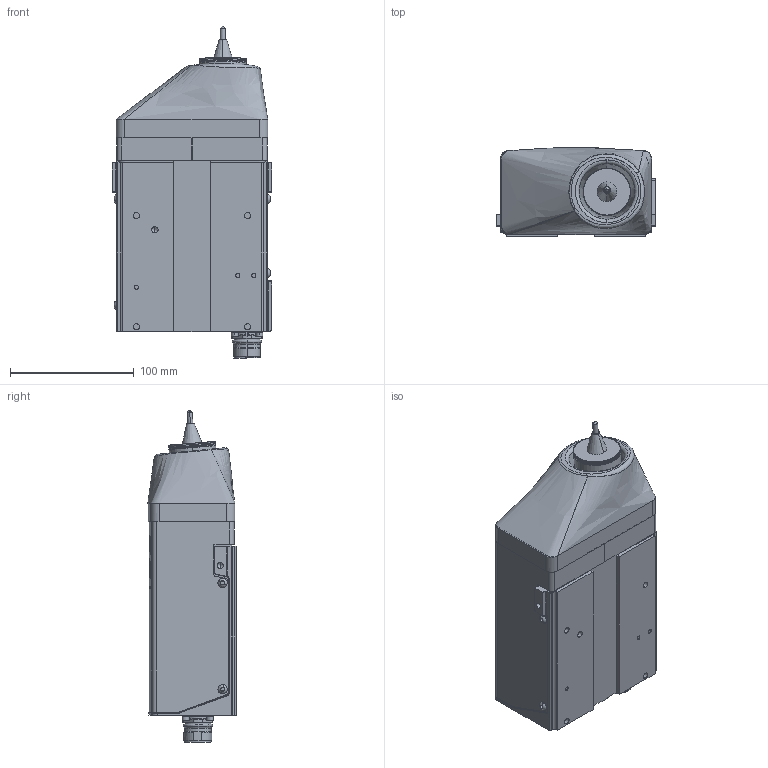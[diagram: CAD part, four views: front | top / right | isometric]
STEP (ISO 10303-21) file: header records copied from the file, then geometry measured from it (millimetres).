
FILE_DESCRIPTION (( 'STEP AP203' ), '1' );
FILE_NAME ('4 200 037 + 4 100 408.STEP', '2014-04-04T08:20:33', ( '' ), ( '' ), 'SwSTEP 2.0', 'SolidWorks 2011', '' );
FILE_SCHEMA (( 'CONFIG_CONTROL_DESIGN' ));
Products named in the file (1): 4 200 037 + 4 100 408
Bounding box: 129 x 71.47 x 268.56 mm (x, y, z)
Volume: 259277.9 mm3; surface area: 247426.4 mm2
Topology: 31 solids, 31 shells, 2781 faces, 7151 edges, 4444 vertices
Faces by surface type: cylinder 1463, plane 658, bspline 226, torus 207, sphere 127, cone 100
Entity records: 95545 total; most frequent: CARTESIAN_POINT 28316, DIRECTION 14795, ORIENTED_EDGE 14024, EDGE_CURVE 7012, AXIS2_PLACEMENT_3D 5956, VERTEX_POINT 4406, CIRCLE 3400, EDGE_LOOP 2984
